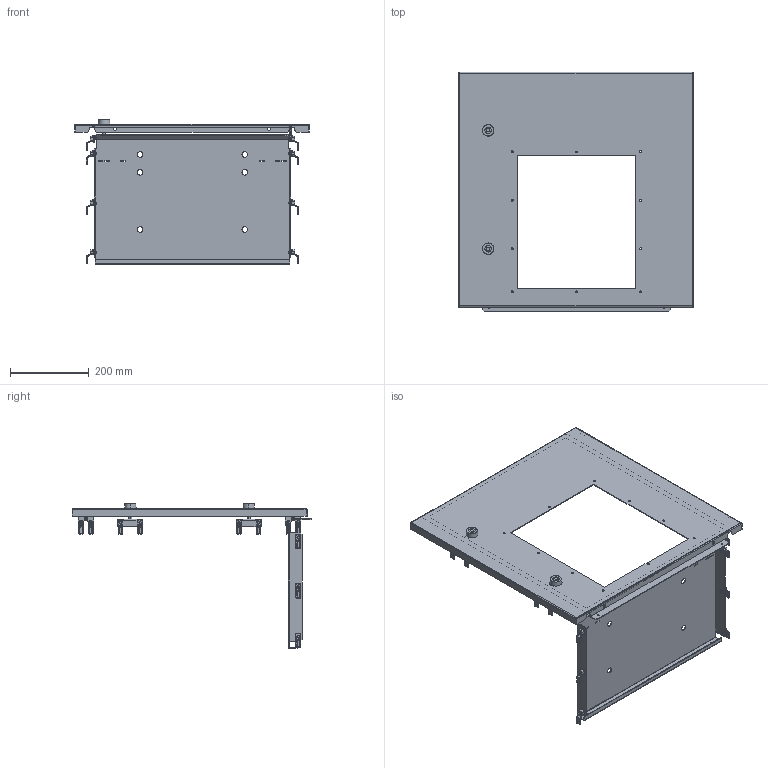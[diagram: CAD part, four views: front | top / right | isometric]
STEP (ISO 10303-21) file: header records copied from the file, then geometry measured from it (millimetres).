
FILE_DESCRIPTION(('CAx-IF Rec.Pracs.---Model Styling and Organization---1.2---2011-12-15','CAx-IF Rec.Pracs.---Geometric and Assembly Validation Properties---4.1---2014-06-16','CAx-IF Rec.Pracs.---PMI Polyline Presentation---2.0---2013-05-24'),'2;1');
FILE_NAME('R5PKEB6V61522.stp','2021-05-14T11:07:44+03:00',(''),(''),'STEP Interface 4.4 by CT CoreTechnologie','3D_Evolution4.4 by CT CoreTechnologie','');
FILE_SCHEMA(('AUTOMOTIVE_DESIGN { 1 0 10303 214 1 1 1 1 }'));
Length unit declared in the file: millimetre
Products named in the file (16): R5PKEB6V61522; AC00C485; M6 x 16-DIN 7991 ISR_thread; M6x16-DIN 7985 ISR_thread; MS737-1-1; MS737-1-1 Z_ ªàëâ; MS737-1-1 stop_fixed; RB.0116.00.00.1_-00; RB.0687.00.00.0_-00; AC00C745; RB.2008.00.00.0_-02; RB.2009.00.00.0 ÑÁ_-02; AC00C266; RB.2009.00.01.0_-02; Ì6õ12-A5100231_straight; PF 7x14 R5PKEB_0600x0600
Assembly tree (45 placements, depth 3):
  R5PKEB6V61522
    AC00C485  x14
    M6 x 16-DIN 7991 ISR_thread  x8
    M6x16-DIN 7985 ISR_thread  x6
    MS737-1-1  x2
      MS737-1-1 Z_ ªàëâ
      MS737-1-1 stop_fixed
    RB.0116.00.00.1_-00  x2
    RB.0687.00.00.0_-00  x2
    AC00C745  x2
    RB.2008.00.00.0_-02
    RB.2009.00.00.0 ÑÁ_-02
      AC00C266  x2
      RB.2009.00.01.0_-02
      Ì6õ12-A5100231_straight
      PF 7x14 R5PKEB_0600x0600
Bounding box: 594 x 607.5 x 366.9 mm (x, y, z)
Surface area: 1184799.5 mm2 (no closed solid volume)
Topology: 0 solids, 68 shells, 2278 faces, 5694 edges, 3513 vertices
Faces by surface type: plane 982, cylinder 914, bspline 382
Entity records: 27110 total; most frequent: CARTESIAN_POINT 7687, ORIENTED_EDGE 3810, DIRECTION 3791, EDGE_CURVE 1905, AXIS2_PLACEMENT_3D 1292, VERTEX_POINT 1212, VECTOR 1207, LINE 1207
